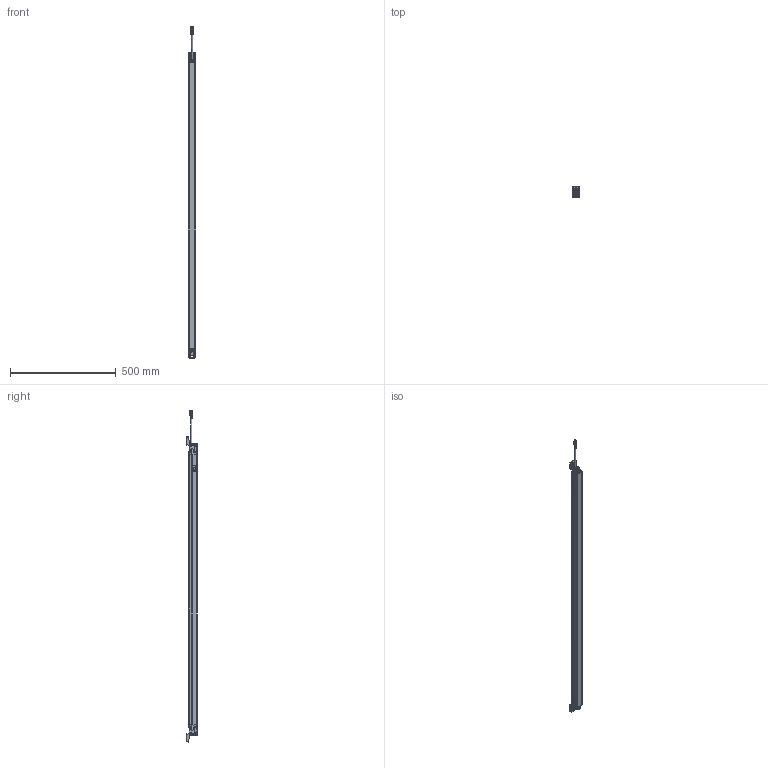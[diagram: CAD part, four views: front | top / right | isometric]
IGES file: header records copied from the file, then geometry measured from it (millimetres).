
Global section: file name: H304898_A_PSEN_opIIXX-s-yy-135_Kundendaten; native system: Autodesk Inventor 2017; preprocessor: unknown; author: jebe; date: 20160701.093515; units: millimetre
Bounding box: 35.02 x 48 x 1571.5 mm (x, y, z)
Volume: 1807898.7 mm3; surface area: 285753.2 mm2
Topology: 6 solids, 8 shells, 4111 faces, 10149 edges, 6046 vertices
Faces by surface type: bspline 4111
